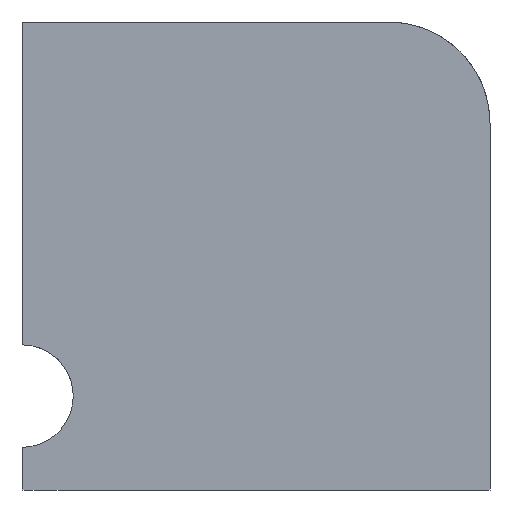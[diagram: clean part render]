
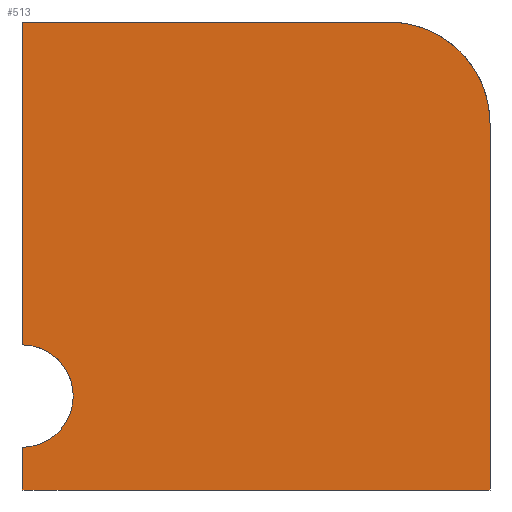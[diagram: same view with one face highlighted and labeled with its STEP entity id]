
A CAD part, left-side view. The second image highlights one B-rep face of the part: STEP entity #513.
In plain terms, the highlighted planar face has unit normal (-1, 0, 0).
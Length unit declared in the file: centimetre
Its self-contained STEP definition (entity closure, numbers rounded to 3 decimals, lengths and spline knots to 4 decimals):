
#26 = AXIS2_PLACEMENT_3D ( 'NONE', #1496, #1258, #1249 ) ;
#27 = ORIENTED_EDGE ( 'NONE', *, *, #1125, .F. ) ;
#34 = VERTEX_POINT ( 'NONE', #214 ) ;
#75 = EDGE_CURVE ( 'NONE', #475, #34, #151, .T. ) ;
#111 = VECTOR ( 'NONE', #1057, 100. ) ;
#130 = CARTESIAN_POINT ( 'NONE',  ( 0., 1000., 1000. ) ) ;
#142 = CARTESIAN_POINT ( 'NONE',  ( 0., 1000., 310.2087 ) ) ;
#151 = CIRCLE ( 'NONE', #535, 109.5203 ) ;
#184 = ORIENTED_EDGE ( 'NONE', *, *, #831, .T. ) ;
#186 = LINE ( 'NONE', #197, #918 ) ;
#197 = CARTESIAN_POINT ( 'NONE',  ( 0., 1000., 0. ) ) ;
#214 = CARTESIAN_POINT ( 'NONE',  ( 0., 1000., 91.1682 ) ) ;
#234 = LINE ( 'NONE', #1289, #111 ) ;
#240 = DIRECTION ( 'NONE',  ( -1., 0., 0. ) ) ;
#262 = CARTESIAN_POINT ( 'NONE',  ( 0., 1000., 1000. ) ) ;
#266 = CARTESIAN_POINT ( 'NONE',  ( 0., 0., 783.2994 ) ) ;
#338 = DIRECTION ( 'NONE',  ( 0., -1., 0. ) ) ;
#389 = ORIENTED_EDGE ( 'NONE', *, *, #807, .T. ) ;
#454 = DIRECTION ( 'NONE',  ( 0., 0., -1. ) ) ;
#475 = VERTEX_POINT ( 'NONE', #142 ) ;
#478 = EDGE_LOOP ( 'NONE', ( #184, #1360, #781, #1357, #953, #389, #27 ) ) ;
#493 = VECTOR ( 'NONE', #849, 100. ) ;
#513 = ADVANCED_FACE ( 'NONE', ( #982 ), #1269, .F. ) ;
#535 = AXIS2_PLACEMENT_3D ( 'NONE', #756, #1525, #1028 ) ;
#611 = VERTEX_POINT ( 'NONE', #1114 ) ;
#756 = CARTESIAN_POINT ( 'NONE',  ( 0., 1000., 200.6884 ) ) ;
#781 = ORIENTED_EDGE ( 'NONE', *, *, #949, .T. ) ;
#807 = EDGE_CURVE ( 'NONE', #1393, #611, #891, .T. ) ;
#831 = EDGE_CURVE ( 'NONE', #1511, #475, #1564, .T. ) ;
#849 = DIRECTION ( 'NONE',  ( 0., -1., 0. ) ) ;
#873 = CARTESIAN_POINT ( 'NONE',  ( 0., 1000., 0. ) ) ;
#891 = CIRCLE ( 'NONE', #974, 216.7006 ) ;
#918 = VECTOR ( 'NONE', #338, 100. ) ;
#949 = EDGE_CURVE ( 'NONE', #34, #1635, #234, .T. ) ;
#953 = ORIENTED_EDGE ( 'NONE', *, *, #1322, .F. ) ;
#974 = AXIS2_PLACEMENT_3D ( 'NONE', #1426, #240, #1168 ) ;
#979 = CARTESIAN_POINT ( 'NONE',  ( 0., 1000., 1000. ) ) ;
#982 = FACE_OUTER_BOUND ( 'NONE', #478, .T. ) ;
#985 = CARTESIAN_POINT ( 'NONE',  ( 0., 0., 1000. ) ) ;
#1028 = DIRECTION ( 'NONE',  ( 0., 0., -1. ) ) ;
#1034 = EDGE_CURVE ( 'NONE', #1635, #1524, #186, .T. ) ;
#1056 = VECTOR ( 'NONE', #454, 100. ) ;
#1057 = DIRECTION ( 'NONE',  ( 0., 0., -1. ) ) ;
#1114 = CARTESIAN_POINT ( 'NONE',  ( 0., 216.7006, 1000. ) ) ;
#1125 = EDGE_CURVE ( 'NONE', #1511, #611, #1218, .T. ) ;
#1168 = DIRECTION ( 'NONE',  ( 0., 0., -1. ) ) ;
#1191 = VECTOR ( 'NONE', #1571, 100. ) ;
#1218 = LINE ( 'NONE', #979, #493 ) ;
#1249 = DIRECTION ( 'NONE',  ( 0., 0., -1. ) ) ;
#1258 = DIRECTION ( 'NONE',  ( 1., 0., 0. ) ) ;
#1269 = PLANE ( 'NONE',  #26 ) ;
#1289 = CARTESIAN_POINT ( 'NONE',  ( 0., 1000., 1000. ) ) ;
#1322 = EDGE_CURVE ( 'NONE', #1393, #1524, #1380, .T. ) ;
#1357 = ORIENTED_EDGE ( 'NONE', *, *, #1034, .T. ) ;
#1360 = ORIENTED_EDGE ( 'NONE', *, *, #75, .T. ) ;
#1380 = LINE ( 'NONE', #985, #1056 ) ;
#1393 = VERTEX_POINT ( 'NONE', #266 ) ;
#1426 = CARTESIAN_POINT ( 'NONE',  ( 0., 216.7006, 783.2994 ) ) ;
#1496 = CARTESIAN_POINT ( 'NONE',  ( 0., 1000., 1000. ) ) ;
#1511 = VERTEX_POINT ( 'NONE', #130 ) ;
#1524 = VERTEX_POINT ( 'NONE', #1657 ) ;
#1525 = DIRECTION ( 'NONE',  ( 1., 0., 0. ) ) ;
#1564 = LINE ( 'NONE', #262, #1191 ) ;
#1571 = DIRECTION ( 'NONE',  ( 0., 0., -1. ) ) ;
#1635 = VERTEX_POINT ( 'NONE', #873 ) ;
#1657 = CARTESIAN_POINT ( 'NONE',  ( 0., 0., 0. ) ) ;
